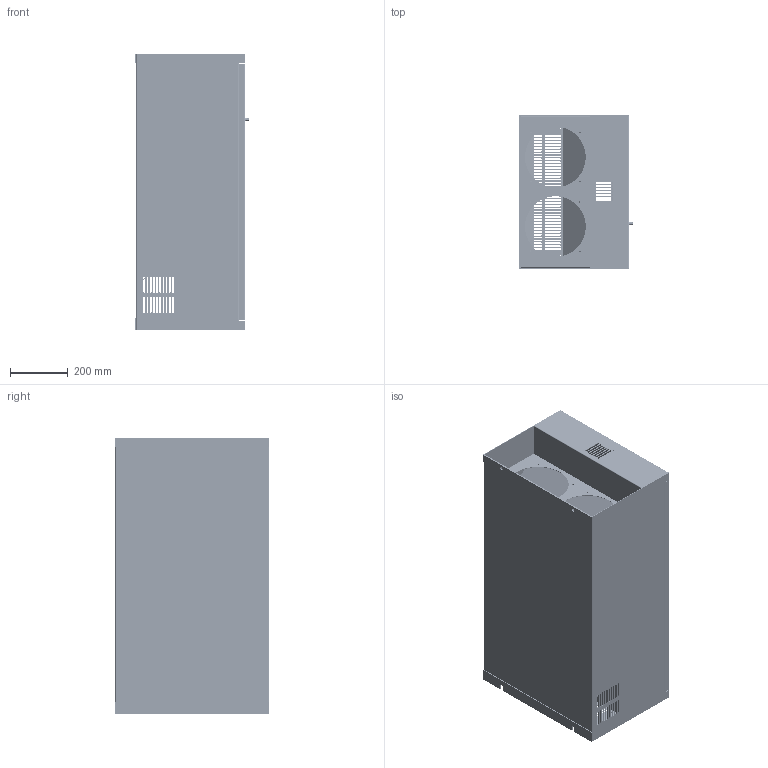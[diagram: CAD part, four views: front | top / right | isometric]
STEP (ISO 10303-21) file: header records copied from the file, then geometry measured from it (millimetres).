
FILE_DESCRIPTION(('STEP AP203'), '1');
FILE_NAME('Ïðåîáðàçîâàòåëü ÷àñòîòû _ MCI-G132_P160-4', '', ('UNSPECIFIED'), ('UNSPECIFIED'), 'C3D Converter', 'C3D Toolkit', '');
FILE_SCHEMA(('CONFIG_CONTROL_DESIGN'));
Length unit declared in the file: millimetre
Products named in the file (45): MCI-G132_P160-4; MCI-G132; MCI-MF-B; MCI-KP-B
Assembly tree (123 placements, depth 4):
  MCI-G132_P160-4
    MCI-G132
      MCI-G132
        MCI-G132
        MCI-G132
      MCI-G132  x2
      MCI-G132
      MCI-G132  x4
        MCI-G132
        MCI-G132
      MCI-G132  x2
        MCI-G132
        MCI-G132
      MCI-G132  x2
        MCI-G132
        MCI-G132
      MCI-G132
        MCI-G132
        MCI-G132  x4
      MCI-G132
      MCI-G132
      MCI-G132
        MCI-G132
        MCI-G132  x4
      MCI-G132
        MCI-G132
        MCI-G132  x3
      MCI-G132  x4
        MCI-G132
        MCI-G132
      MCI-G132
    MCI-G132
      MCI-G132
      MCI-G132  x4
      MCI-G132  x8
    MCI-G132
    MCI-G132
      MCI-G132
      MCI-G132  x24
    MCI-G132
    MCI-G132
      MCI-G132
      MCI-G132
    MCI-G132  x2
      MCI-G132
      MCI-G132
    MCI-G132
      MCI-G132
      MCI-G132  x4
      MCI-G132  x5
      MCI-G132  x9
      MCI-G132
    MCI-MF-B
    MCI-KP-B
Bounding box: 391.37 x 530 x 950 mm (x, y, z)
Volume: 5757204.7 mm3; surface area: 6797525.1 mm2
Topology: 117 solids, 126 shells, 3450 faces, 8837 edges, 5701 vertices
Faces by surface type: plane 1734, cylinder 1550, revolution 92, extrusion 48, cone 16, bspline 4, torus 4, sphere 2
Full cylindrical faces by diameter (mm): 0.2 x2, 1 x12, 1.7 x2, 2 x8, 2.7 x4, 3 x563, 3.2 x16, 4 x49, 4.3 x9, 4.4 x16, 5 x29, 5.4 x129, 5.5 x4, 6 x8, 6.3 x9, 6.4 x34, 7.9 x45, 8 x3, 8.7 x21, 10 x1, 10.5 x1, 12 x5, 12.6 x1, 13 x8, 14 x2, 14.9 x4, 15 x1, 16 x1, 18 x4, 210 x2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
Entity records: 91585 total; most frequent: CARTESIAN_POINT 16918, DIRECTION 14085, ORIENTED_EDGE 12794, EDGE_CURVE 6403, AXIS2_PLACEMENT_3D 5157, EDGE_LOOP 5133, VERTEX_POINT 4627, VECTOR 3733
